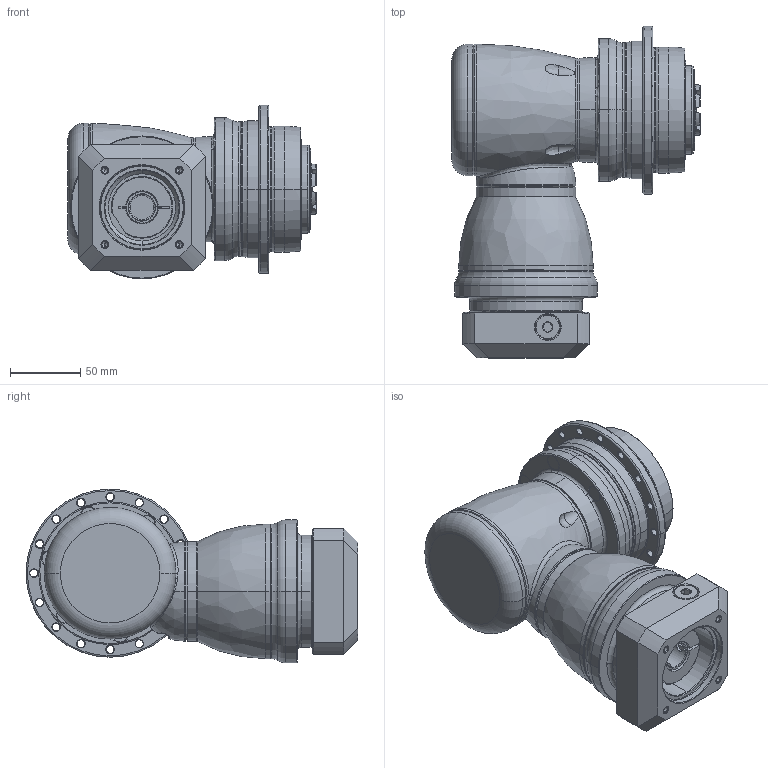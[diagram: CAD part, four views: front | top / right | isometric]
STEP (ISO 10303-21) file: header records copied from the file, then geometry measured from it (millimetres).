
FILE_DESCRIPTION((''),'2;1');
FILE_NAME('APCK090_2ST_19-P0409400201_ASM','2018-10-26T',('d01226'),(''),'PRO/ENGINEER BY PARAMETRIC TECHNOLOGY CORPORATION, 2015240','PRO/ENGINEER BY PARAMETRIC TECHNOLOGY CORPORATION, 2015240','');
FILE_SCHEMA(('CONFIG_CONTROL_DESIGN'));
Length unit declared in the file: millimetre
Products named in the file (13): P1008300002; P1802310011; P0278301003; P0359330103; P1211300001; P1315300001; P1007301001; P1318310201; P0409400201; P0503400006; P0129302001; 21711412017; APCK090_2ST_19-P0409400201_ASM
Assembly tree (12 placements, depth 2):
  APCK090_2ST_19-P0409400201_ASM
    P1008300002
    P1802310011
    P0278301003
    P0359330103
    P1211300001
    P1315300001
    P1007301001
    P1318310201
    P0409400201
    P0503400006
    P0129302001
    21711412017
Bounding box: 177.4 x 237 x 124 mm (x, y, z)
Volume: 1963793.4 mm3; surface area: 266834.3 mm2
Topology: 13 solids, 23 shells, 730 faces, 1713 edges, 1044 vertices
Faces by surface type: cylinder 255, cone 181, plane 152, torus 101, bspline 39, sphere 2
Entity records: 26000 total; most frequent: CARTESIAN_POINT 8884, DIRECTION 3824, ORIENTED_EDGE 3332, EDGE_CURVE 1687, AXIS2_PLACEMENT_3D 1654, VERTEX_POINT 1038, CIRCLE 928, EDGE_LOOP 831
